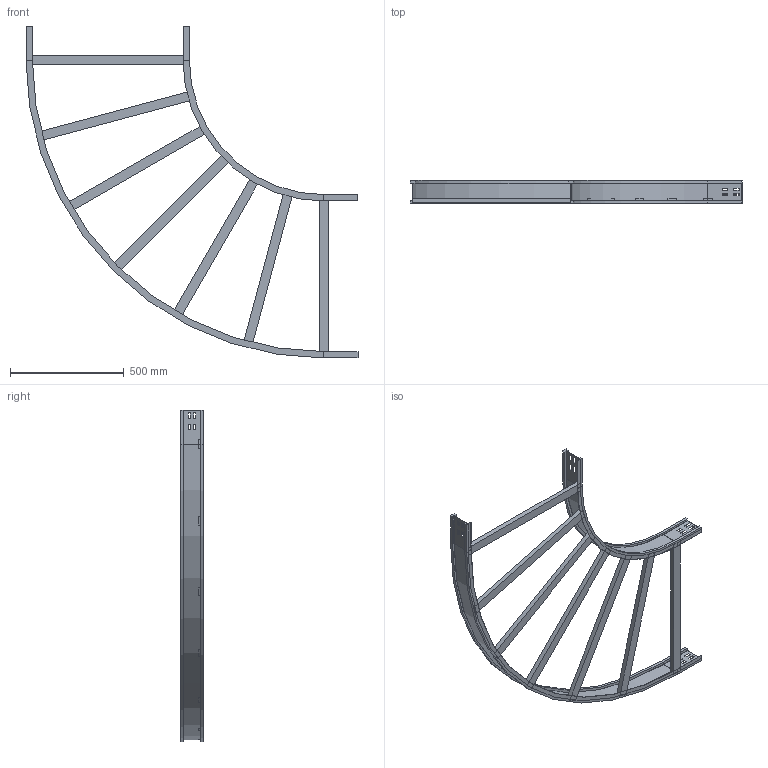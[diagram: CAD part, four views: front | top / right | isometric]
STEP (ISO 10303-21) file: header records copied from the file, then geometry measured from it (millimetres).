
FILE_DESCRIPTION (( 'STEP AP214' ), '1' );
FILE_NAME ('10S6D700.step', '2025-02-21T16:09:43', ( '' ), ( '' ), 'SwSTEP 2.0', 'SolidWorks 2023', '' );
FILE_SCHEMA (( 'AUTOMOTIVE_DESIGN' ));
Length unit declared in the file: millimetre
Products named in the file (4): 10S6D700; LONGH.ESTERNO 90°_H100_R600+700; TRAVERSINO_700; LONGH.INTERNO 90°_H100_R600
Assembly tree (9 placements, depth 2):
  10S6D700
    LONGH.INTERNO 90°_H100_R600
    LONGH.ESTERNO 90°_H100_R600+700
    TRAVERSINO_700  x7
Bounding box: 1459 x 100 x 1459 mm (x, y, z)
Volume: 5847278 mm3; surface area: 1662852.4 mm2
Topology: 9 solids, 9 shells, 182 faces, 444 edges, 280 vertices
Faces by surface type: plane 170, cylinder 12
Entity records: 4509 total; most frequent: CARTESIAN_POINT 762, ORIENTED_EDGE 744, DIRECTION 712, EDGE_CURVE 372, VECTOR 348, LINE 348, VERTEX_POINT 232, AXIS2_PLACEMENT_3D 182
